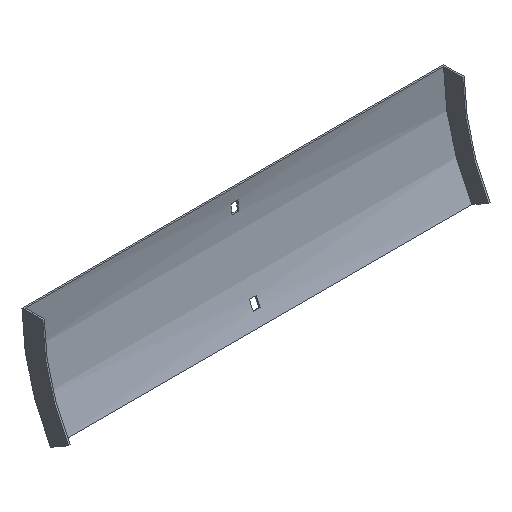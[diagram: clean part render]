
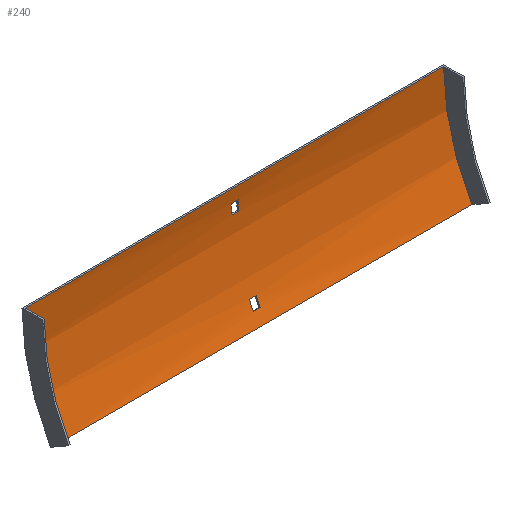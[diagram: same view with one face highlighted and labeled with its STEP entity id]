
A CAD part, isometric view. The second image highlights one B-rep face of the part: STEP entity #240.
In plain terms, the highlighted cylindrical face has radius 204 mm (diameter 408 mm), a partial arc.
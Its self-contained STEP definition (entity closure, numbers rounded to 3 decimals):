
#3 = LINE ( 'NONE', #186, #11 ) ;
#9 = LINE ( 'NONE', #51, #475 ) ;
#11 = VECTOR ( 'NONE', #566, 1000. ) ;
#19 = DIRECTION ( 'NONE',  ( 1., 0., 0. ) ) ;
#24 = VERTEX_POINT ( 'NONE', #420 ) ;
#34 = CYLINDRICAL_SURFACE ( 'NONE', #398, 204. ) ;
#38 = ORIENTED_EDGE ( 'NONE', *, *, #393, .T. ) ;
#51 = CARTESIAN_POINT ( 'NONE',  ( 203.5, -19.269, -83.272 ) ) ;
#53 = ORIENTED_EDGE ( 'NONE', *, *, #346, .F. ) ;
#55 = CARTESIAN_POINT ( 'NONE',  ( 3.25, -205.5, 0. ) ) ;
#64 = DIRECTION ( 'NONE',  ( 0., 0., -1. ) ) ;
#71 = ORIENTED_EDGE ( 'NONE', *, *, #577, .F. ) ;
#77 = DIRECTION ( 'NONE',  ( 0., 0., 1. ) ) ;
#82 = VERTEX_POINT ( 'NONE', #298 ) ;
#91 = EDGE_CURVE ( 'NONE', #24, #494, #9, .T. ) ;
#95 = AXIS2_PLACEMENT_3D ( 'NONE', #264, #549, #124 ) ;
#96 = VERTEX_POINT ( 'NONE', #483 ) ;
#97 = EDGE_LOOP ( 'NONE', ( #38, #117, #554, #137 ) ) ;
#98 = CARTESIAN_POINT ( 'NONE',  ( 202., -1.5, 0. ) ) ;
#100 = CARTESIAN_POINT ( 'NONE',  ( 203.5, -23.137, -91.431 ) ) ;
#103 = EDGE_CURVE ( 'NONE', #82, #394, #116, .T. ) ;
#111 = DIRECTION ( 'NONE',  ( -1., 0., 0. ) ) ;
#116 = CIRCLE ( 'NONE', #506, 204. ) ;
#117 = ORIENTED_EDGE ( 'NONE', *, *, #513, .T. ) ;
#122 = LINE ( 'NONE', #269, #210 ) ;
#124 = DIRECTION ( 'NONE',  ( 0., 0., 1. ) ) ;
#132 = CIRCLE ( 'NONE', #389, 204. ) ;
#137 = ORIENTED_EDGE ( 'NONE', *, *, #374, .T. ) ;
#151 = CIRCLE ( 'NONE', #379, 204. ) ;
#156 = LINE ( 'NONE', #344, #284 ) ;
#171 = VERTEX_POINT ( 'NONE', #178 ) ;
#175 = DIRECTION ( 'NONE',  ( -1., 0., 0. ) ) ;
#177 = EDGE_CURVE ( 'NONE', #394, #372, #122, .T. ) ;
#178 = CARTESIAN_POINT ( 'NONE',  ( 202., -28.831, -102. ) ) ;
#182 = CARTESIAN_POINT ( 'NONE',  ( -3.25, -205.5, 0. ) ) ;
#186 = CARTESIAN_POINT ( 'NONE',  ( 203.5, -2.584, -21. ) ) ;
#187 = CARTESIAN_POINT ( 'NONE',  ( -3.25, -205.5, 0. ) ) ;
#203 = CIRCLE ( 'NONE', #255, 204. ) ;
#209 = EDGE_CURVE ( 'NONE', #372, #96, #151, .T. ) ;
#210 = VECTOR ( 'NONE', #224, 1000. ) ;
#212 = VECTOR ( 'NONE', #574, 1000. ) ;
#215 = FACE_BOUND ( 'NONE', #426, .T. ) ;
#220 = EDGE_CURVE ( 'NONE', #171, #453, #597, .T. ) ;
#224 = DIRECTION ( 'NONE',  ( -1., 0., 0. ) ) ;
#227 = CARTESIAN_POINT ( 'NONE',  ( 3.25, -19.269, -83.272 ) ) ;
#240 = ADVANCED_FACE ( 'NONE', ( #215, #500, #392 ), #34, .F. ) ;
#248 = VERTEX_POINT ( 'NONE', #553 ) ;
#255 = AXIS2_PLACEMENT_3D ( 'NONE', #384, #299, #306 ) ;
#264 = CARTESIAN_POINT ( 'NONE',  ( 202., -205.5, 0. ) ) ;
#265 = VECTOR ( 'NONE', #370, 1000. ) ;
#269 = CARTESIAN_POINT ( 'NONE',  ( 203.5, -1.853, -12. ) ) ;
#270 = EDGE_LOOP ( 'NONE', ( #71, #570, #293, #334 ) ) ;
#284 = VECTOR ( 'NONE', #111, 1000. ) ;
#293 = ORIENTED_EDGE ( 'NONE', *, *, #220, .T. ) ;
#298 = CARTESIAN_POINT ( 'NONE',  ( 3.25, -2.584, -21. ) ) ;
#299 = DIRECTION ( 'NONE',  ( 1., 0., 0. ) ) ;
#304 = CARTESIAN_POINT ( 'NONE',  ( -3.25, -23.137, -91.431 ) ) ;
#306 = DIRECTION ( 'NONE',  ( 0., 0., 1. ) ) ;
#310 = CARTESIAN_POINT ( 'NONE',  ( 203.5, -205.5, 0. ) ) ;
#311 = AXIS2_PLACEMENT_3D ( 'NONE', #182, #512, #383 ) ;
#312 = DIRECTION ( 'NONE',  ( -1., 0., 0. ) ) ;
#331 = CARTESIAN_POINT ( 'NONE',  ( 202., -1.5, 0. ) ) ;
#332 = CARTESIAN_POINT ( 'NONE',  ( 3.25, -205.5, 0. ) ) ;
#334 = ORIENTED_EDGE ( 'NONE', *, *, #425, .T. ) ;
#343 = CARTESIAN_POINT ( 'NONE',  ( -202., -28.831, -102. ) ) ;
#344 = CARTESIAN_POINT ( 'NONE',  ( 202., -28.831, -102. ) ) ;
#345 = VERTEX_POINT ( 'NONE', #414 ) ;
#346 = EDGE_CURVE ( 'NONE', #96, #82, #3, .T. ) ;
#365 = LINE ( 'NONE', #100, #212 ) ;
#368 = DIRECTION ( 'NONE',  ( 0., 0., 1. ) ) ;
#370 = DIRECTION ( 'NONE',  ( -1., 0., 0. ) ) ;
#372 = VERTEX_POINT ( 'NONE', #474 ) ;
#374 = EDGE_CURVE ( 'NONE', #494, #345, #132, .T. ) ;
#375 = VERTEX_POINT ( 'NONE', #343 ) ;
#379 = AXIS2_PLACEMENT_3D ( 'NONE', #187, #175, #368 ) ;
#383 = DIRECTION ( 'NONE',  ( 0., 0., -1. ) ) ;
#384 = CARTESIAN_POINT ( 'NONE',  ( -202., -205.5, 0. ) ) ;
#389 = AXIS2_PLACEMENT_3D ( 'NONE', #55, #489, #391 ) ;
#391 = DIRECTION ( 'NONE',  ( 0., 0., 1. ) ) ;
#392 = FACE_BOUND ( 'NONE', #97, .T. ) ;
#393 = EDGE_CURVE ( 'NONE', #345, #600, #365, .T. ) ;
#394 = VERTEX_POINT ( 'NONE', #469 ) ;
#398 = AXIS2_PLACEMENT_3D ( 'NONE', #310, #312, #77 ) ;
#414 = CARTESIAN_POINT ( 'NONE',  ( 3.25, -23.137, -91.431 ) ) ;
#420 = CARTESIAN_POINT ( 'NONE',  ( -3.25, -19.269, -83.272 ) ) ;
#425 = EDGE_CURVE ( 'NONE', #453, #248, #466, .T. ) ;
#426 = EDGE_LOOP ( 'NONE', ( #603, #558, #563, #53 ) ) ;
#452 = CIRCLE ( 'NONE', #311, 204. ) ;
#453 = VERTEX_POINT ( 'NONE', #98 ) ;
#466 = LINE ( 'NONE', #331, #265 ) ;
#469 = CARTESIAN_POINT ( 'NONE',  ( 3.25, -1.853, -12. ) ) ;
#474 = CARTESIAN_POINT ( 'NONE',  ( -3.25, -1.853, -12. ) ) ;
#475 = VECTOR ( 'NONE', #19, 1000. ) ;
#477 = DIRECTION ( 'NONE',  ( 1., 0., 0. ) ) ;
#483 = CARTESIAN_POINT ( 'NONE',  ( -3.25, -2.584, -21. ) ) ;
#489 = DIRECTION ( 'NONE',  ( -1., 0., 0. ) ) ;
#494 = VERTEX_POINT ( 'NONE', #227 ) ;
#500 = FACE_OUTER_BOUND ( 'NONE', #270, .T. ) ;
#506 = AXIS2_PLACEMENT_3D ( 'NONE', #332, #477, #64 ) ;
#512 = DIRECTION ( 'NONE',  ( 1., 0., 0. ) ) ;
#513 = EDGE_CURVE ( 'NONE', #600, #24, #452, .T. ) ;
#549 = DIRECTION ( 'NONE',  ( 1., 0., 0. ) ) ;
#553 = CARTESIAN_POINT ( 'NONE',  ( -202., -1.5, 0. ) ) ;
#554 = ORIENTED_EDGE ( 'NONE', *, *, #91, .T. ) ;
#558 = ORIENTED_EDGE ( 'NONE', *, *, #177, .F. ) ;
#563 = ORIENTED_EDGE ( 'NONE', *, *, #103, .F. ) ;
#566 = DIRECTION ( 'NONE',  ( 1., 0., 0. ) ) ;
#570 = ORIENTED_EDGE ( 'NONE', *, *, #594, .F. ) ;
#574 = DIRECTION ( 'NONE',  ( -1., 0., 0. ) ) ;
#577 = EDGE_CURVE ( 'NONE', #375, #248, #203, .T. ) ;
#594 = EDGE_CURVE ( 'NONE', #171, #375, #156, .T. ) ;
#597 = CIRCLE ( 'NONE', #95, 204. ) ;
#600 = VERTEX_POINT ( 'NONE', #304 ) ;
#603 = ORIENTED_EDGE ( 'NONE', *, *, #209, .F. ) ;
